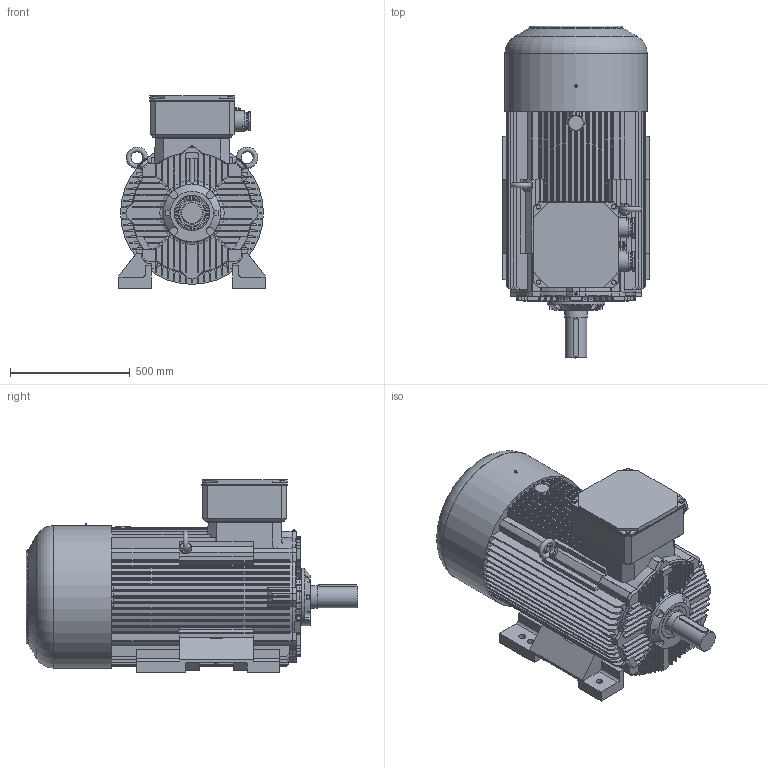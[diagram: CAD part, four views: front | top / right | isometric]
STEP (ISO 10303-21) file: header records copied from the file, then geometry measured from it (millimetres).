
FILE_DESCRIPTION(/* description */ ('Unknown'),/* implementation_level */ '2;1');
FILE_NAME(/* name */ '3SIE315M8C_D',/* time_stamp */ '2021-04-12T13:56:59+02:00',/* author */ ('Unknown'),/* organization */ ('Unknown'),/* preprocessor_version */ 'ST-DEVELOPER v16.7',/* originating_system */ 'DEX',/* authorisation */ $);
FILE_SCHEMA (('AUTOMOTIVE_DESIGN {1 0 10303 214 3 1 1}'));
Length unit declared in the file: millimetre
Products named in the file (1): 2SIE315M8C_D
Bounding box: 610.02 x 1385 x 804.5 mm (x, y, z)
Volume: 303028027 mm3; surface area: 7036215.2 mm2
Topology: 4 solids, 20 shells, 1477 faces, 4030 edges, 2650 vertices
Faces by surface type: plane 968, cylinder 307, cone 105, torus 81, bspline 16
Full cylindrical faces by diameter (mm): 1.6 x2, 5 x3, 10.106 x4, 12.894 x1, 13.835 x1, 16.63 x4, 19.978 x1, 24 x4, 26.234 x1, 26.969 x1, 28 x6, 50 x2, 55 x2, 57 x4, 65 x4, 70 x2, 71 x6, 72 x2, 72.752 x2, 76 x2, 85 x2, 89.999 x1, 95.181 x2, 99.4 x1, 100 x1, 111.399 x1, 112 x1, 119.4 x1, 119.999 x1, 131.399 x1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
Entity records: 57409 total; most frequent: CARTESIAN_POINT 10497, ORIENTED_EDGE 7698, DIRECTION 7373, EDGE_CURVE 3849, VERTEX_POINT 2604, AXIS2_PLACEMENT_3D 2461, LINE 2451, VECTOR 2451
